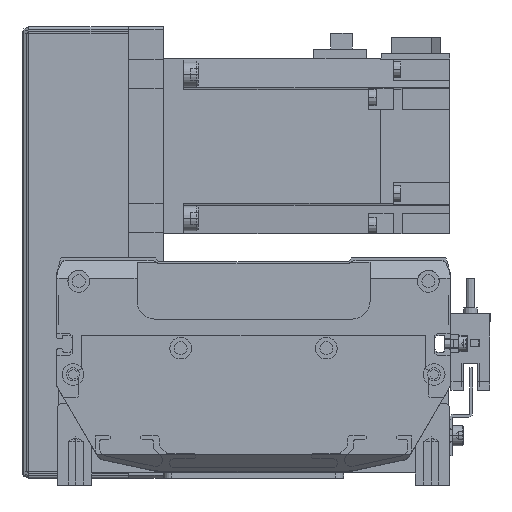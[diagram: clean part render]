
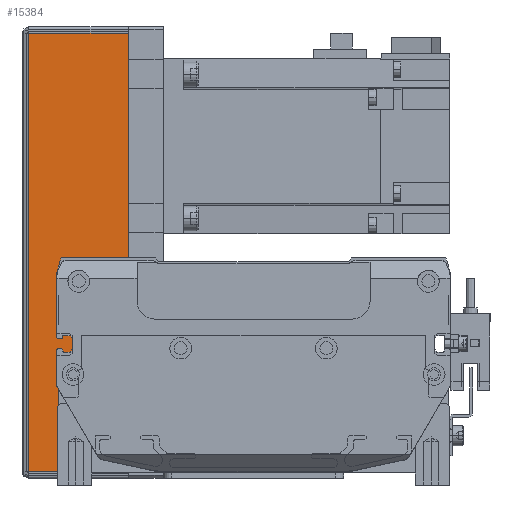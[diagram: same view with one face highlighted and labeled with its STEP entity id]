
A CAD part, front view. The second image highlights one B-rep face of the part: STEP entity #15384.
In plain terms, the highlighted planar face has unit normal (0, -1, 0).
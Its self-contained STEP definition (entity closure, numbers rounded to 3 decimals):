
#615 = FACE_OUTER_BOUND ( 'NONE', #23130, .T. ) ;
#1385 = DIRECTION ( 'NONE',  ( 0., 1., 0. ) ) ;
#1826 = DIRECTION ( 'NONE',  ( 1., 0., 0. ) ) ;
#3223 = ORIENTED_EDGE ( 'NONE', *, *, #3643, .T. ) ;
#3643 = EDGE_CURVE ( 'NONE', #36894, #26273, #17317, .T. ) ;
#5500 = PLANE ( 'NONE',  #13898 ) ;
#5768 = CARTESIAN_POINT ( 'NONE',  ( -34.793, -37., 36.5 ) ) ;
#6385 = VECTOR ( 'NONE', #30268, 1000. ) ;
#8311 = CARTESIAN_POINT ( 'NONE',  ( -34.793, -37., 0. ) ) ;
#12459 = CARTESIAN_POINT ( 'NONE',  ( 118., -37., 34.263 ) ) ;
#13536 = EDGE_CURVE ( 'NONE', #20557, #24810, #28672, .T. ) ;
#13898 = AXIS2_PLACEMENT_3D ( 'NONE', #40579, #1385, #40105 ) ;
#15055 = CARTESIAN_POINT ( 'NONE',  ( 115.793, -37., 34.263 ) ) ;
#15384 = ADVANCED_FACE ( 'NONE', ( #615 ), #5500, .F. ) ;
#17317 = LINE ( 'NONE', #5768, #6385 ) ;
#18105 = LINE ( 'NONE', #19448, #44466 ) ;
#19448 = CARTESIAN_POINT ( 'NONE',  ( -162.166, -37., 0. ) ) ;
#20557 = VERTEX_POINT ( 'NONE', #15055 ) ;
#21420 = EDGE_CURVE ( 'NONE', #26273, #24810, #18105, .T. ) ;
#21703 = LINE ( 'NONE', #12459, #34364 ) ;
#22046 = ORIENTED_EDGE ( 'NONE', *, *, #13536, .F. ) ;
#22117 = VECTOR ( 'NONE', #42841, 1000. ) ;
#23130 = EDGE_LOOP ( 'NONE', ( #22046, #33111, #3223, #24028 ) ) ;
#24028 = ORIENTED_EDGE ( 'NONE', *, *, #21420, .T. ) ;
#24076 = EDGE_CURVE ( 'NONE', #36894, #20557, #21703, .T. ) ;
#24810 = VERTEX_POINT ( 'NONE', #29842 ) ;
#26273 = VERTEX_POINT ( 'NONE', #8311 ) ;
#28672 = LINE ( 'NONE', #32381, #22117 ) ;
#29700 = CARTESIAN_POINT ( 'NONE',  ( -34.793, -37., 34.263 ) ) ;
#29842 = CARTESIAN_POINT ( 'NONE',  ( 115.793, -37., 0. ) ) ;
#30268 = DIRECTION ( 'NONE',  ( 0., 0., -1. ) ) ;
#32381 = CARTESIAN_POINT ( 'NONE',  ( 115.793, -37., 35. ) ) ;
#33111 = ORIENTED_EDGE ( 'NONE', *, *, #24076, .F. ) ;
#34364 = VECTOR ( 'NONE', #44059, 1000. ) ;
#36894 = VERTEX_POINT ( 'NONE', #29700 ) ;
#40105 = DIRECTION ( 'NONE',  ( 0., 0., 1. ) ) ;
#40579 = CARTESIAN_POINT ( 'NONE',  ( -162.166, -37., 36.5 ) ) ;
#42841 = DIRECTION ( 'NONE',  ( 0., 0., -1. ) ) ;
#44059 = DIRECTION ( 'NONE',  ( 1., 0., 0. ) ) ;
#44466 = VECTOR ( 'NONE', #1826, 1000. ) ;
